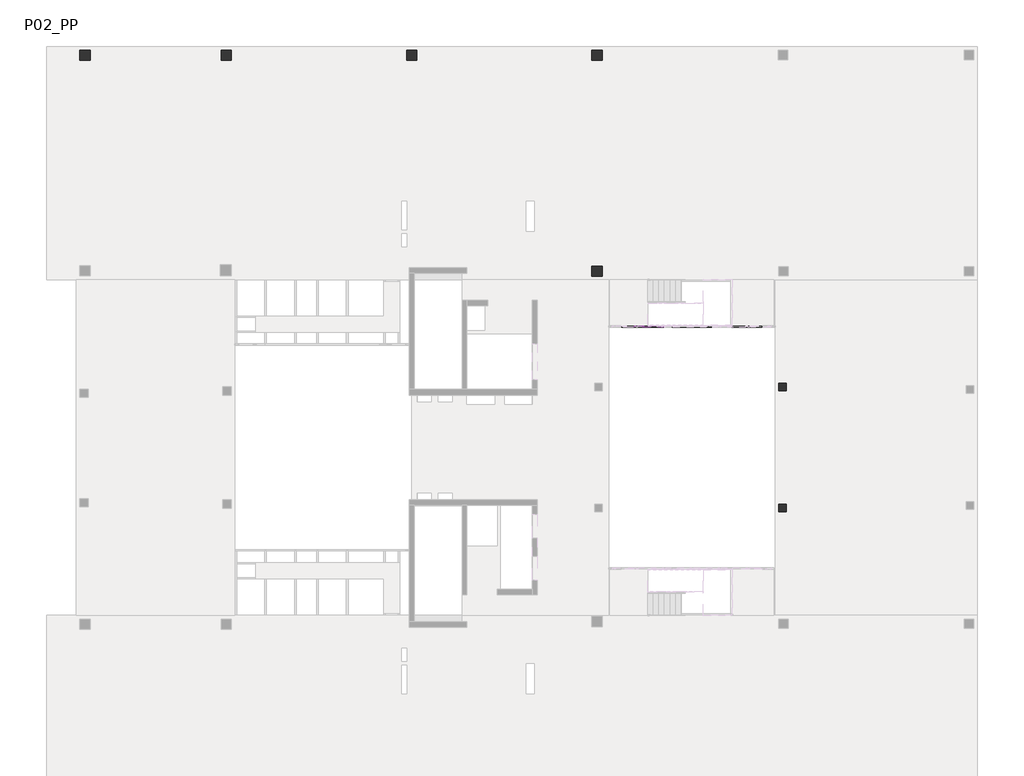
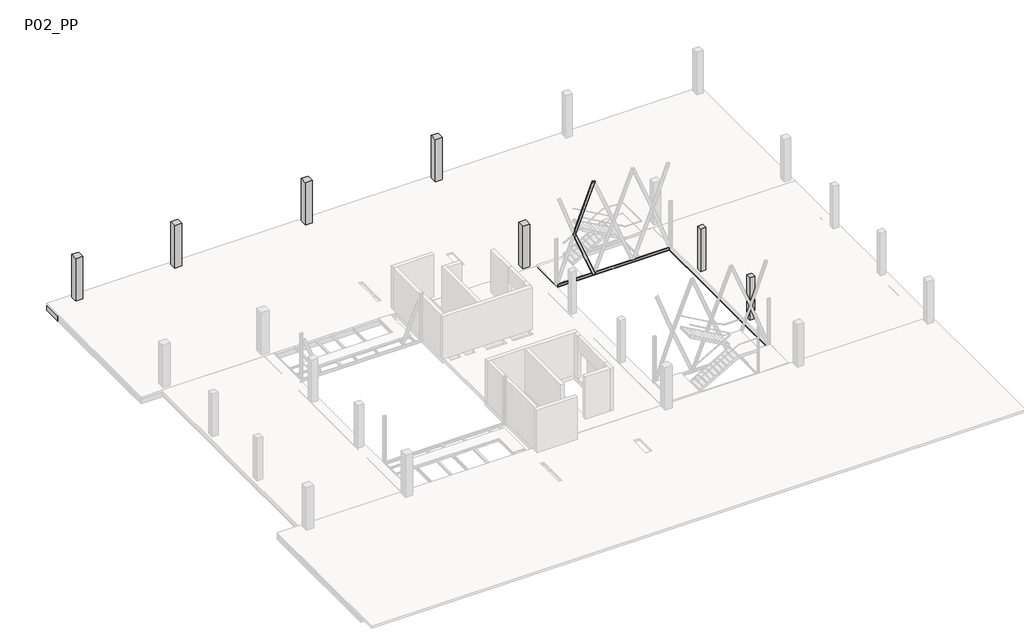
# One storey, part 5 of 7: 28 beams, 7 columns.
"""IFC4 building model written with IfcOpenShell, lengths in millimetres."""

from ifc_helpers import new_model, si_unit, frame, origin, place, context, project, spatial, polyline, circle_curve, ellipse_curve, outline, extrude, faceted_brep, transform, mapped, element, save
from ifc_brep_helpers import plane_surface, cylinder_surface, revolved_surface, advanced_brep
from components import ub_universal_beams_ipe_200x100_1ecb3d1d, ub_universal_beams_ipe_200x100_6905c83b, upn200x75_de95b273

model = new_model("IFC4")

# Units and contexts
model_context = context("Model", 3, world=origin())
ifc_project = project(units=[si_unit("LENGTHUNIT", "METRE", prefix="MILLI")], contexts=[model_context])

# Site, building, storey
site = spatial("IfcSite", under=ifc_project)
building = spatial("IfcBuilding", under=site)
storey = spatial("IfcBuildingStorey", under=building, Name="P02_PP", Elevation=14910.0)

# Beams
placement = place(None, origin())
element("IfcBeam", 1, ObjectType="M_Concrete-Rectangular Beam : 1500 x 550mm", at=placement, inside=storey, context=model_context, shape_type="Brep", body=[
    faceted_brep([(16958.7687297, 26089.4144807, 14360.0), (-33190.2931069, 26089.4144807, 14360.0), (-33190.2931069, 26089.4144807, 14760.0), (16958.7687297, 26089.4144807, 14760.0), (-33190.2931069, 24589.4144807, 14360.0), (16958.7687297, 24589.4144807, 14360.0), (15458.7687297, 24589.4144807, 14360.0), (14183.7291255, 24589.4144807, 14360.0), (13783.7291255, 24589.4144807, 14360.0), (12517.0624618, 24589.4144807, 14360.0), (12117.0624618, 24589.4144807, 14360.0), (10850.3957976, 24589.4144807, 14360.0), (10450.3957976, 24589.4144807, 14360.0), (9183.7291339, 24589.4144807, 14360.0), (8783.7291339, 24589.4144807, 14360.0), (7517.0624701, 24589.4144807, 14360.0), (7117.0624701, 24589.4144807, 14360.0), (5850.3958055, 24589.4144807, 14360.0), (5450.3958055, 24589.4144807, 14360.0), (4183.7291418, 24589.4144807, 14360.0), (3783.7291418, 24589.4144807, 14360.0), (2517.0624776, 24589.4144807, 14360.0), (2117.0624776, 24589.4144807, 14360.0), (850.3958139, 24589.4144807, 14360.0), (450.3958139, 24589.4144807, 14360.0), (-816.2708502, 24589.4144807, 14360.0), (-1216.2708502, 24589.4144807, 14360.0), (-2482.9375136, 24589.4144807, 14360.0), (-2882.9375136, 24589.4144807, 14360.0), (-4149.6041777, 24589.4144807, 14360.0), (-4549.6041777, 24589.4144807, 14360.0), (-5816.2708415, 24589.4144807, 14360.0), (-6216.2708415, 24589.4144807, 14360.0), (-7482.9375051, 24589.4144807, 14360.0), (-7882.9375051, 24589.4144807, 14360.0), (-9149.6041702, 24589.4144807, 14360.0), (-9549.6041702, 24589.4144807, 14360.0), (-10816.2708336, 24589.4144807, 14360.0), (-11216.2708336, 24589.4144807, 14360.0), (-12482.9374977, 24589.4144807, 14360.0), (-12882.9374977, 24589.4144807, 14360.0), (-14149.604161, 24589.4144807, 14360.0), (-14549.604161, 24589.4144807, 14360.0), (-15816.2708252, 24589.4144807, 14360.0), (-16216.2708252, 24589.4144807, 14360.0), (-17482.9374898, 24589.4144807, 14360.0), (-17882.9374898, 24589.4144807, 14360.0), (-19149.6041539, 24589.4144807, 14360.0), (-19549.6041539, 24589.4144807, 14360.0), (-20816.2708168, 24589.4144807, 14360.0), (-21216.2708168, 24589.4144807, 14360.0), (-22482.9374805, 24589.4144807, 14360.0), (-22882.9374805, 24589.4144807, 14360.0), (-24149.6041453, 24589.4144807, 14360.0), (-24549.6041453, 24589.4144807, 14360.0), (-25816.2708089, 24589.4144807, 14360.0), (-26216.2708089, 24589.4144807, 14360.0), (-27482.9374731, 24589.4144807, 14360.0), (-27882.9374731, 24589.4144807, 14360.0), (-29149.6041367, 24589.4144807, 14360.0), (-29549.6041367, 24589.4144807, 14360.0), (-30816.2708024, 24589.4144807, 14360.0), (-31216.2708024, 24589.4144807, 14360.0), (-32490.2931069, 24589.4144807, 14360.0), (6758.8155472, 25339.4133956, 14360.0), (6758.8155464, 25889.4133956, 14360.0), (6208.8155464, 25889.4133947, 14360.0), (6208.8155472, 25339.4133947, 14360.0), (-3266.6369088, 25289.4133493, 14360.0), (-3266.6369078, 25889.4133493, 14360.0), (-3866.6369078, 25889.4133503, 14360.0), (-3866.6369088, 25289.4133503, 14360.0), (-13216.1844624, 25289.4133103, 14360.0), (-13216.1844628, 25889.4133103, 14360.0), (-13816.1844628, 25889.4133099, 14360.0), (-13816.1844624, 25289.4133099, 14360.0), (-23241.1863603, 25289.4132594, 14360.0), (-23241.1863605, 25889.4132594, 14360.0), (-23841.1863605, 25889.4132593, 14360.0), (-23841.1863603, 25289.4132593, 14360.0), (-30791.2219505, 25289.41323, 14360.0), (-30791.2219504, 25889.41323, 14360.0), (-31391.2219504, 25889.4132301, 14360.0), (-31391.2219505, 25289.4132301, 14360.0), (16758.7685927, 25339.4134356, 14360.0), (16758.7685923, 25889.4134356, 14360.0), (16208.7685923, 25889.4134352, 14360.0), (16208.7685927, 25339.4134352, 14360.0), (16958.7687297, 24589.4144807, 14760.0), (15458.7687297, 24589.4144807, 14760.0), (14183.7291255, 24589.4144807, 14760.0), (13783.7291255, 24589.4144807, 14760.0), (12517.0624618, 24589.4144807, 14760.0), (12117.0624618, 24589.4144807, 14760.0), (10850.3957976, 24589.4144807, 14760.0), (10450.3957976, 24589.4144807, 14760.0), (9183.7291339, 24589.4144807, 14760.0), (8783.7291339, 24589.4144807, 14760.0), (7517.0624701, 24589.4144807, 14760.0), (7117.0624701, 24589.4144807, 14760.0), (5850.3958055, 24589.4144807, 14760.0), (5450.3958055, 24589.4144807, 14760.0), (4183.7291418, 24589.4144807, 14760.0), (3783.7291418, 24589.4144807, 14760.0), (2517.0624776, 24589.4144807, 14760.0), (2117.0624776, 24589.4144807, 14760.0), (850.3958139, 24589.4144807, 14760.0), (450.3958139, 24589.4144807, 14760.0), (-816.2708502, 24589.4144807, 14760.0), (-1216.2708502, 24589.4144807, 14760.0), (-2482.9375136, 24589.4144807, 14760.0), (-2882.9375136, 24589.4144807, 14760.0), (-4149.6041777, 24589.4144807, 14760.0), (-4549.6041777, 24589.4144807, 14760.0), (-5816.2708415, 24589.4144807, 14760.0), (-6216.2708415, 24589.4144807, 14760.0), (-7482.9375051, 24589.4144807, 14760.0), (-7882.9375051, 24589.4144807, 14760.0), (-9149.6041702, 24589.4144807, 14760.0), (-9549.6041702, 24589.4144807, 14760.0), (-10816.2708336, 24589.4144807, 14760.0), (-11216.2708336, 24589.4144807, 14760.0), (-12482.9374977, 24589.4144807, 14760.0), (-12882.9374977, 24589.4144807, 14760.0), (-14149.604161, 24589.4144807, 14760.0), (-14549.604161, 24589.4144807, 14760.0), (-15816.2708252, 24589.4144807, 14760.0), (-16216.2708252, 24589.4144807, 14760.0), (-17482.9374898, 24589.4144807, 14760.0), (-17882.9374898, 24589.4144807, 14760.0), (-19149.6041539, 24589.4144807, 14760.0), (-19549.6041539, 24589.4144807, 14760.0), (-20816.2708168, 24589.4144807, 14760.0), (-21216.2708168, 24589.4144807, 14760.0), (-22482.9374805, 24589.4144807, 14760.0), (-22882.9374805, 24589.4144807, 14760.0), (-24149.6041453, 24589.4144807, 14760.0), (-24549.6041453, 24589.4144807, 14760.0), (-25816.2708089, 24589.4144807, 14760.0), (-26216.2708089, 24589.4144807, 14760.0), (-27482.9374731, 24589.4144807, 14760.0), (-27882.9374731, 24589.4144807, 14760.0), (-29149.6041367, 24589.4144807, 14760.0), (-29549.6041367, 24589.4144807, 14760.0), (-30816.2708024, 24589.4144807, 14760.0), (-31216.2708024, 24589.4144807, 14760.0), (-32490.2931069, 24589.4144807, 14760.0), (-33190.2931069, 24589.4144807, 14760.0), (6758.8155472, 25339.4133956, 14610.0), (6758.8155464, 25889.4133956, 14610.0), (6208.8155472, 25339.4133947, 14610.0), (6208.8155464, 25889.4133947, 14610.0), (-3266.6369088, 25289.4133493, 14610.0), (-3266.6369078, 25889.4133493, 14610.0), (-3866.6369088, 25289.4133503, 14610.0), (-3866.6369078, 25889.4133503, 14610.0), (-13216.1844624, 25289.4133103, 14610.0), (-13216.1844628, 25889.4133103, 14610.0), (-13816.1844624, 25289.4133099, 14610.0), (-13816.1844628, 25889.4133099, 14610.0), (-23241.1863603, 25289.4132594, 14610.0), (-23241.1863605, 25889.4132594, 14610.0), (-23841.1863603, 25289.4132593, 14610.0), (-23841.1863605, 25889.4132593, 14610.0), (-30791.2219505, 25289.41323, 14610.0), (-30791.2219504, 25889.41323, 14610.0), (-31391.2219505, 25289.4132301, 14610.0), (-31391.2219504, 25889.4132301, 14610.0), (16758.7685927, 25339.4134356, 14610.0), (16758.7685923, 25889.4134356, 14610.0), (16208.7685927, 25339.4134352, 14610.0), (16208.7685923, 25889.4134352, 14610.0)], [[[0, 1, 2, 3]], [[4, 1, 0, 5, 6, 7, 8, 9, 10, 11, 12, 13, 14, 15, 16, 17, 18, 19, 20, 21, 22, 23, 24, 25, 26, 27, 28, 29, 30, 31, 32, 33, 34, 35, 36, 37, 38, 39, 40, 41, 42, 43, 44, 45, 46, 47, 48, 49, 50, 51, 52, 53, 54, 55, 56, 57, 58, 59, 60, 61, 62, 63], [64, 65, 66, 67], [68, 69, 70, 71], [72, 73, 74, 75], [76, 77, 78, 79], [80, 81, 82, 83], [84, 85, 86, 87]], [[4, 63, 62, 61, 60, 59, 58, 57, 56, 55, 54, 53, 52, 51, 50, 49, 48, 47, 46, 45, 44, 43, 42, 41, 40, 39, 38, 37, 36, 35, 34, 33, 32, 31, 30, 29, 28, 27, 26, 25, 24, 23, 22, 21, 20, 19, 18, 17, 16, 15, 14, 13, 12, 11, 10, 9, 8, 7, 6, 5, 88, 89, 90, 91, 92, 93, 94, 95, 96, 97, 98, 99, 100, 101, 102, 103, 104, 105, 106, 107, 108, 109, 110, 111, 112, 113, 114, 115, 116, 117, 118, 119, 120, 121, 122, 123, 124, 125, 126, 127, 128, 129, 130, 131, 132, 133, 134, 135, 136, 137, 138, 139, 140, 141, 142, 143, 144, 145, 146, 147]], [[1, 4, 147, 2]], [[5, 0, 3, 88]], [[148, 149, 65, 64]], [[150, 148, 64, 67]], [[151, 150, 67, 66]], [[149, 151, 66, 65]], [[149, 148, 150, 151]], [[152, 153, 69, 68]], [[154, 152, 68, 71]], [[155, 154, 71, 70]], [[153, 155, 70, 69]], [[153, 152, 154, 155]], [[156, 157, 73, 72]], [[158, 156, 72, 75]], [[159, 158, 75, 74]], [[157, 159, 74, 73]], [[157, 156, 158, 159]], [[160, 161, 77, 76]], [[162, 160, 76, 79]], [[163, 162, 79, 78]], [[161, 163, 78, 77]], [[161, 160, 162, 163]], [[164, 165, 81, 80]], [[166, 164, 80, 83]], [[167, 166, 83, 82]], [[165, 167, 82, 81]], [[165, 164, 166, 167]], [[168, 169, 85, 84]], [[170, 168, 84, 87]], [[171, 170, 87, 86]], [[169, 171, 86, 85]], [[169, 168, 170, 171]], [[3, 2, 147, 146, 145, 144, 143, 142, 141, 140, 139, 138, 137, 136, 135, 134, 133, 132, 131, 130, 129, 128, 127, 126, 125, 124, 123, 122, 121, 120, 119, 118, 117, 116, 115, 114, 113, 112, 111, 110, 109, 108, 107, 106, 105, 104, 103, 102, 101, 100, 99, 98, 97, 96, 95, 94, 93, 92, 91, 90, 89, 88]]]),
])
element("IfcBeam", 2, ObjectType="M_Concrete-Rectangular Beam : 400 x 550mm", at=placement, inside=storey, context=model_context, shape_type="SweptSolid", body=[
    extrude(outline(polyline([(-31216.2708024, 24589.4144807), (-30816.2708024, 24589.4144807), (-30816.2708024, 15039.4134441), (-31216.2708024, 15039.4134441), (-31216.2708024, 24589.4144807)])), frame((0.0, 0.0, 14360.0), z_axis=(0.0, 0.0, 1.0), x_axis=(1.0, 0.0, 0.0)), (0.0, 0.0, 1.0), 400.0),
])
element("IfcBeam", 3, ObjectType="M_Concrete-Rectangular Beam : 400 x 550mm", at=placement, inside=storey, context=model_context, shape_type="SweptSolid", body=[
    extrude(outline(polyline([(-29549.6041367, 24589.4144807), (-29149.6041367, 24589.4144807), (-29149.6041367, 15039.4134441), (-29549.6041367, 15039.4134441), (-29549.6041367, 24589.4144807)])), frame((0.0, 0.0, 14360.0), z_axis=(0.0, 0.0, 1.0), x_axis=(1.0, 0.0, 0.0)), (0.0, 0.0, 1.0), 400.0),
])
element("IfcBeam", 4, ObjectType="M_Concrete-Rectangular Beam : 400 x 550mm", at=placement, inside=storey, context=model_context, shape_type="SweptSolid", body=[
    extrude(outline(polyline([(-27882.9374731, 24589.4144807), (-27482.9374731, 24589.4144807), (-27482.9374731, 15039.4134441), (-27882.9374731, 15039.4134441), (-27882.9374731, 24589.4144807)])), frame((0.0, 0.0, 14360.0), z_axis=(0.0, 0.0, 1.0), x_axis=(1.0, 0.0, 0.0)), (0.0, 0.0, 1.0), 400.0),
])
element("IfcBeam", 5, ObjectType="M_Concrete-Rectangular Beam : 400 x 550mm", at=placement, inside=storey, context=model_context, shape_type="SweptSolid", body=[
    extrude(outline(polyline([(-26216.2708089, 24589.4144807), (-25816.2708089, 24589.4144807), (-25816.2708089, 15039.4134441), (-26216.2708089, 15039.4134441), (-26216.2708089, 24589.4144807)])), frame((0.0, 0.0, 14360.0), z_axis=(0.0, 0.0, 1.0), x_axis=(1.0, 0.0, 0.0)), (0.0, 0.0, 1.0), 400.0),
])
element("IfcBeam", 6, ObjectType="M_Concrete-Rectangular Beam : 400 x 550mm", at=placement, inside=storey, context=model_context, shape_type="SweptSolid", body=[
    extrude(outline(polyline([(-24549.6041453, 24589.4144807), (-24149.6041453, 24589.4144807), (-24149.6041453, 15039.4134441), (-24549.6041453, 15039.4134441), (-24549.6041453, 24589.4144807)])), frame((0.0, 0.0, 14360.0), z_axis=(0.0, 0.0, 1.0), x_axis=(1.0, 0.0, 0.0)), (0.0, 0.0, 1.0), 400.0),
])
element("IfcBeam", 7, ObjectType="M_Concrete-Rectangular Beam : 400 x 550mm", at=placement, inside=storey, context=model_context, shape_type="SweptSolid", body=[
    extrude(outline(polyline([(-22882.9374805, 24589.4144807), (-22482.9374805, 24589.4144807), (-22482.9374805, 15039.4134441), (-22882.9374805, 15039.4134441), (-22882.9374805, 24589.4144807)])), frame((0.0, 0.0, 14360.0), z_axis=(0.0, 0.0, 1.0), x_axis=(1.0, 0.0, 0.0)), (0.0, 0.0, 1.0), 400.0),
])
element("IfcBeam", 8, ObjectType="M_Concrete-Rectangular Beam : 400 x 550mm", at=placement, inside=storey, context=model_context, shape_type="SweptSolid", body=[
    extrude(outline(polyline([(-21216.2708168, 24589.4144807), (-20816.2708168, 24589.4144807), (-20816.2708168, 15039.4134441), (-21216.2708168, 15039.4134441), (-21216.2708168, 24589.4144807)])), frame((0.0, 0.0, 14360.0), z_axis=(0.0, 0.0, 1.0), x_axis=(1.0, 0.0, 0.0)), (0.0, 0.0, 1.0), 400.0),
])
element("IfcBeam", 9, ObjectType="M_Concrete-Rectangular Beam : 400 x 550mm", at=placement, inside=storey, context=model_context, shape_type="SweptSolid", body=[
    extrude(outline(polyline([(-19549.6041539, 24589.4144807), (-19149.6041539, 24589.4144807), (-19149.6041539, 15039.4134441), (-19549.6041539, 15039.4134441), (-19549.6041539, 24589.4144807)])), frame((0.0, 0.0, 14360.0), z_axis=(0.0, 0.0, 1.0), x_axis=(1.0, 0.0, 0.0)), (0.0, 0.0, 1.0), 400.0),
])
element("IfcBeam", 10, ObjectType="M_Concrete-Rectangular Beam : 400 x 550mm", at=placement, inside=storey, context=model_context, shape_type="SweptSolid", body=[
    extrude(outline(polyline([(-17882.9374898, 24589.4144807), (-17482.9374898, 24589.4144807), (-17482.9374898, 15039.4134441), (-17882.9374898, 15039.4134441), (-17882.9374898, 24589.4144807)])), frame((0.0, 0.0, 14360.0), z_axis=(0.0, 0.0, 1.0), x_axis=(1.0, 0.0, 0.0)), (0.0, 0.0, 1.0), 400.0),
])
element("IfcBeam", 11, ObjectType="M_Concrete-Rectangular Beam : 400 x 550mm", at=placement, inside=storey, context=model_context, shape_type="SweptSolid", body=[
    extrude(outline(polyline([(-16216.2708252, 24589.4144807), (-15816.2708252, 24589.4144807), (-15816.2708252, 15039.4134441), (-16216.2708252, 15039.4134441), (-16216.2708252, 24589.4144807)])), frame((0.0, 0.0, 14360.0), z_axis=(0.0, 0.0, 1.0), x_axis=(1.0, 0.0, 0.0)), (0.0, 0.0, 1.0), 400.0),
])
element("IfcBeam", 12, ObjectType="M_Concrete-Rectangular Beam : 400 x 550mm", at=placement, inside=storey, context=model_context, shape_type="SweptSolid", body=[
    extrude(outline(polyline([(-14549.604161, 24589.4144807), (-14149.604161, 24589.4144807), (-14149.604161, 15039.4134441), (-14549.604161, 15039.4134441), (-14549.604161, 24589.4144807)])), frame((0.0, 0.0, 14360.0), z_axis=(0.0, 0.0, 1.0), x_axis=(1.0, 0.0, 0.0)), (0.0, 0.0, 1.0), 400.0),
])
element("IfcBeam", 13, ObjectType="M_Concrete-Rectangular Beam : 400 x 550mm", at=placement, inside=storey, context=model_context, shape_type="SweptSolid", body=[
    extrude(outline(polyline([(-12882.9374977, 24589.4144807), (-12482.9374977, 24589.4144807), (-12482.9374977, 15039.4134441), (-12882.9374977, 15039.4134441), (-12882.9374977, 24589.4144807)])), frame((0.0, 0.0, 14360.0), z_axis=(0.0, 0.0, 1.0), x_axis=(1.0, 0.0, 0.0)), (0.0, 0.0, 1.0), 400.0),
])
element("IfcBeam", 14, ObjectType="M_Concrete-Rectangular Beam : 400 x 550mm", at=placement, inside=storey, context=model_context, shape_type="SweptSolid", body=[
    extrude(outline(polyline([(-11216.2708336, 24589.4144807), (-10816.2708336, 24589.4144807), (-10816.2708336, 15039.4134441), (-11216.2708336, 15039.4134441), (-11216.2708336, 24589.4144807)])), frame((0.0, 0.0, 14360.0), z_axis=(0.0, 0.0, 1.0), x_axis=(1.0, 0.0, 0.0)), (0.0, 0.0, 1.0), 400.0),
])
element("IfcBeam", 15, ObjectType="M_Concrete-Rectangular Beam : 400 x 550mm", at=placement, inside=storey, context=model_context, shape_type="SweptSolid", body=[
    extrude(outline(polyline([(-9549.6041702, 24589.4144807), (-9149.6041702, 24589.4144807), (-9149.6041702, 15039.4134441), (-9549.6041702, 15039.4134441), (-9549.6041702, 24589.4144807)])), frame((0.0, 0.0, 14360.0), z_axis=(0.0, 0.0, 1.0), x_axis=(1.0, 0.0, 0.0)), (0.0, 0.0, 1.0), 400.0),
])
element("IfcBeam", 16, ObjectType="M_Concrete-Rectangular Beam : 400 x 550mm", at=placement, inside=storey, context=model_context, shape_type="SweptSolid", body=[
    extrude(outline(polyline([(-7882.9375051, 24589.4144807), (-7482.9375051, 24589.4144807), (-7482.9375051, 15039.4134441), (-7882.9375051, 15039.4134441), (-7882.9375051, 24589.4144807)])), frame((0.0, 0.0, 14360.0), z_axis=(0.0, 0.0, 1.0), x_axis=(1.0, 0.0, 0.0)), (0.0, 0.0, 1.0), 400.0),
])
element("IfcBeam", 17, ObjectType="M_Concrete-Rectangular Beam : 400 x 550mm", at=placement, inside=storey, context=model_context, shape_type="SweptSolid", body=[
    extrude(outline(polyline([(-6216.2708415, 24589.4144807), (-5816.2708415, 24589.4144807), (-5816.2708415, 15039.4134441), (-6216.2708415, 15039.4134441), (-6216.2708415, 24589.4144807)])), frame((0.0, 0.0, 14360.0), z_axis=(0.0, 0.0, 1.0), x_axis=(1.0, 0.0, 0.0)), (0.0, 0.0, 1.0), 400.0),
])
element("IfcBeam", 18, ObjectType="M_Concrete-Rectangular Beam : 400 x 550mm", at=placement, inside=storey, context=model_context, shape_type="SweptSolid", body=[
    extrude(outline(polyline([(-4549.6041777, 24589.4144807), (-4149.6041777, 24589.4144807), (-4149.6041777, 15039.4134441), (-4549.6041777, 15039.4134441), (-4549.6041777, 24589.4144807)])), frame((0.0, 0.0, 14360.0), z_axis=(0.0, 0.0, 1.0), x_axis=(1.0, 0.0, 0.0)), (0.0, 0.0, 1.0), 400.0),
])
element("IfcBeam", 19, ObjectType="M_Concrete-Rectangular Beam : 400 x 550mm", at=placement, inside=storey, context=model_context, shape_type="SweptSolid", body=[
    extrude(outline(polyline([(-2882.9375136, 24589.4144807), (-2482.9375136, 24589.4144807), (-2482.9375136, 15039.4134441), (-2882.9375136, 15039.4134441), (-2882.9375136, 24589.4144807)])), frame((0.0, 0.0, 14360.0), z_axis=(0.0, 0.0, 1.0), x_axis=(1.0, 0.0, 0.0)), (0.0, 0.0, 1.0), 400.0),
])
element("IfcBeam", 20, ObjectType="M_Concrete-Rectangular Beam : 400 x 550mm", at=placement, inside=storey, context=model_context, shape_type="SweptSolid", body=[
    extrude(outline(polyline([(-1216.2708502, 24589.4144807), (-816.2708502, 24589.4144807), (-816.2708502, 15039.4134441), (-1216.2708502, 15039.4134441), (-1216.2708502, 24589.4144807)])), frame((0.0, 0.0, 14360.0), z_axis=(0.0, 0.0, 1.0), x_axis=(1.0, 0.0, 0.0)), (0.0, 0.0, 1.0), 400.0),
])
element("IfcBeam", 21, ObjectType="M_Concrete-Rectangular Beam : 700 x 500mm", at=placement, inside=storey, context=model_context, shape_type="Brep", body=[
    faceted_brep([(6758.8308521, 13539.4134441, 14910.0), (6058.8308521, 13539.4134441, 14910.0), (6058.8308521, -4560.5861501, 14910.0), (6758.8308521, -4560.5861501, 14910.0), (6658.8276494, 1439.4125013, 14910.0), (6658.8276496, 1039.4125013, 14910.0), (6258.8276496, 1039.4125011, 14910.0), (6258.8276494, 1439.4125011, 14910.0), (6658.8276467, 7939.4125047, 14910.0), (6658.8276471, 7539.4125047, 14910.0), (6258.8276471, 7539.4125042, 14910.0), (6258.8276467, 7939.4125042, 14910.0), (6058.8308521, 13539.4134441, 14760.0), (6058.8308521, 13539.4134441, 14410.0), (6058.8308521, -4560.5861501, 14410.0), (6058.8308521, -4560.5861501, 14760.0), (6758.8308521, 13539.4134441, 14410.0), (6758.8308521, -4560.5861501, 14410.0), (6658.8276496, 1039.4125013, 14410.0), (6658.8276494, 1439.4125013, 14410.0), (6258.8276494, 1439.4125011, 14410.0), (6258.8276496, 1039.4125011, 14410.0), (6658.8276471, 7539.4125047, 14410.0), (6658.8276467, 7939.4125047, 14410.0), (6258.8276467, 7939.4125042, 14410.0), (6258.8276471, 7539.4125042, 14410.0), (6758.8308521, -4560.5861501, 14760.0), (6758.8308521, 13539.4134441, 14760.0), (6658.8276496, 1039.4125013, 14610.0), (6658.8276494, 1439.4125013, 14610.0), (6258.8276496, 1039.4125011, 14610.0), (6258.8276494, 1439.4125011, 14610.0), (6658.8276471, 7539.4125047, 14610.0), (6658.8276467, 7939.4125047, 14610.0), (6258.8276471, 7539.4125042, 14610.0), (6258.8276467, 7939.4125042, 14610.0)], [[[0, 1, 2, 3], [4, 5, 6, 7], [8, 9, 10, 11]], [[2, 1, 12, 13, 14, 15]], [[13, 16, 17, 14], [18, 19, 20, 21], [22, 23, 24, 25]], [[0, 3, 26, 17, 16, 27]], [[1, 0, 27, 16, 13, 12]], [[3, 2, 15, 14, 17, 26]], [[19, 18, 28, 5, 4, 29]], [[18, 21, 30, 6, 5, 28]], [[21, 20, 31, 7, 6, 30]], [[20, 19, 29, 4, 7, 31]], [[23, 22, 32, 9, 8, 33]], [[22, 25, 34, 10, 9, 32]], [[25, 24, 35, 11, 10, 34]], [[24, 23, 33, 8, 11, 35]]]),
])
ub_universal_beams_ipe_200x100_shape = ub_universal_beams_ipe_200x100_1ecb3d1d(model_context)
element("IfcBeam", 22, ObjectType="UB-Universal Beams : IPE 200x100", at=placement, inside=storey, context=model_context, shape_type="MappedRepresentation", body=[
    mapped(ub_universal_beams_ipe_200x100_shape, transform((-2811.4958562, 12672.0188251, 14810.0), x_axis=(0.0, -1.0, 0.0), y_axis=(1.0, 0.0, 0.0), z_axis=(0.0, 0.0, 1.0))),
])
ub_universal_beams_ipe_200x100_2_shape = ub_universal_beams_ipe_200x100_6905c83b(model_context)
element("IfcBeam", 23, ObjectType="UB-Universal Beams : IPE 200x100", at=placement, inside=storey, context=model_context, shape_type="MappedRepresentation", body=[
    mapped(ub_universal_beams_ipe_200x100_2_shape, transform((-861.4958562, 12677.4822857, 14810.0), x_axis=(0.0, -1.0, 0.0), y_axis=(1.0, 0.0, 0.0), z_axis=(0.0, 0.0, 1.0))),
])
element("IfcBeam", 24, ObjectType="UB-Universal Beams : IPE 200x100", at=placement, inside=storey, context=model_context, shape_type="MappedRepresentation", body=[
    mapped(ub_universal_beams_ipe_200x100_2_shape, transform((-1511.4958562, 12677.4822857, 14810.0), x_axis=(0.0, -1.0, 0.0), y_axis=(1.0, 0.0, 0.0), z_axis=(0.0, 0.0, 1.0))),
])
element("IfcBeam", 25, ObjectType="UB-Universal Beams : IPE 200x100", at=placement, inside=storey, context=model_context, shape_type="MappedRepresentation", body=[
    mapped(ub_universal_beams_ipe_200x100_2_shape, transform((-2161.4958562, 12677.4822857, 14810.0), x_axis=(0.0, -1.0, 0.0), y_axis=(1.0, 0.0, 0.0), z_axis=(0.0, 0.0, 1.0))),
])
element("IfcBeam", 26, ObjectType="M_MC Shapes : UPN200x75", at=placement, inside=storey, context=model_context, shape_type="AdvancedBrep", body=[
    advanced_brep(
    [(166.4934724, 10979.6239706, 22272.8267741), (166.49347, 11054.6239706, 22272.8267741), (165.5885068, 11054.6239706, 22273.1887594), (161.9709242, 11051.3233478, 22274.6357925), (152.6013192, 10990.7752157, 22278.3836352), (145.366154, 10984.17397, 22281.2777014), (1.9254523, 10984.1739655, 22338.6539821), (-5.3097133, 10990.7752108, 22341.5480482), (-14.6793221, 11051.3233423, 22345.295891), (-18.2969049, 11054.6239649, 22346.7429241), (-19.2018681, 11054.6239649, 22347.1049094), (-19.2018658, 10979.6239649, 22347.1049094), (-1534.0438198, 10979.6239176, 18560.0000243), (-1318.6372276, 10979.6239244, 18560.0000243), (-1534.0438222, 11054.6239176, 18560.0000243), (-1532.9940648, 11054.6239177, 18560.0000243), (-1528.7976687, 11051.3232951, 18560.0000243), (-1517.9289228, 10990.7751636, 18560.0000243), (-1509.5361308, 10984.1739184, 18560.0000243), (-1343.1449168, 10984.1739236, 18560.0000243), (-1334.7521252, 10990.7751693, 18560.0000243), (-1323.8833831, 11051.3233015, 18560.0000243), (-1319.6869873, 11054.6239243, 18560.0000243), (-1318.6372299, 11054.6239244, 18560.0000243)],
    [
        (0, 1),
        (1, 2),
        (2, 3, circle_curve(frame((165.5885069, 11050.6739706, 22273.1887594), z_axis=(0.3713906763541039, 1.1576565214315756e-08, 0.9284766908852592), x_axis=(-3.117085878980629e-08, 0.9999999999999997, 0.0)), 3.95)),
        (3, 4),
        (4, 5, circle_curve(frame((145.3661538, 10992.07397, 22281.2777014), z_axis=(-0.3713906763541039, -1.1576565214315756e-08, -0.9284766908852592), x_axis=(-3.117085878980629e-08, 0.9999999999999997, 0.0)), 7.9)),
        (5, 6),
        (6, 7, circle_curve(frame((1.925452, 10992.0739655, 22338.6539821), z_axis=(-0.3713906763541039, -1.1576565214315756e-08, -0.9284766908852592), x_axis=(-3.117085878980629e-08, 0.9999999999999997, 0.0)), 7.9)),
        (7, 8),
        (8, 9, circle_curve(frame((-18.2969047, 11050.6739649, 22346.7429241), z_axis=(0.3713906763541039, 1.1576565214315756e-08, 0.9284766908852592), x_axis=(-3.117085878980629e-08, 0.9999999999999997, 0.0)), 3.95)),
        (9, 10),
        (10, 11),
        (11, 0),
        (12, 13),
        (13, 0),
        (11, 12),
        (14, 12),
        (10, 14),
        (15, 14),
        (9, 15),
        (16, 15, ellipse_curve(frame((-1532.9940646, 11050.6739177, 18560.0000243), z_axis=(1.3382099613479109e-10, -2.582863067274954e-10, 1.0), x_axis=(-0.9999999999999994, -3.181657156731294e-08, 1.338211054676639e-10)), 4.2542802, 3.95)),
        (8, 16),
        (7, 17),
        (17, 16),
        (18, 17, ellipse_curve(frame((-1509.5361311, 10992.0739184, 18560.0000243), z_axis=(-1.3382099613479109e-10, 2.582863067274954e-10, -1.0), x_axis=(0.9999999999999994, 3.181657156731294e-08, -1.338211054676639e-10)), 8.5085604, 7.9)),
        (6, 18),
        (19, 18),
        (5, 19),
        (20, 19, ellipse_curve(frame((-1343.1449171, 10992.0739236, 18560.0000243), z_axis=(-1.3382099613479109e-10, 2.582863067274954e-10, -1.0), x_axis=(0.9999999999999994, 3.181657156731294e-08, -1.338211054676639e-10)), 8.5085604, 7.9)),
        (4, 20),
        (3, 21),
        (21, 20),
        (22, 21, ellipse_curve(frame((-1319.6869872, 11050.6739243, 18560.0000243), z_axis=(1.3382099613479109e-10, -2.582863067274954e-10, 1.0), x_axis=(-0.9999999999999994, -3.181657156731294e-08, 1.338211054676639e-10)), 4.2542802, 3.95)),
        (2, 22),
        (23, 22),
        (1, 23),
        (13, 23),
    ],
    [
        plane_surface(frame((73.645803, 10990.5239678, 22309.9658417), z_axis=(0.37139067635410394, 1.1576565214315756e-08, 0.9284766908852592), x_axis=(0.9284766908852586, 2.8941416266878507e-08, -0.37139067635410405))),
        plane_surface(frame((-1318.6235642, 10979.6239244, 18560.0341826), z_axis=(3.1170858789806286e-08, -0.9999999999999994, 0.0), x_axis=(0.3713906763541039, 1.1576565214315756e-08, 0.9284766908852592))),
        plane_surface(frame((-1504.3189024, 10979.6239186, 18634.3123179), z_axis=(-0.9284766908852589, -2.8941416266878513e-08, 0.37139067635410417), x_axis=(0.3713906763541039, 1.1576565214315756e-08, 0.9284766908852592))),
        plane_surface(frame((-1504.3189047, 11054.6239186, 18634.3123179), z_axis=(-3.1170858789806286e-08, 0.9999999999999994, 0.0), x_axis=(0.3713906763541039, 1.1576565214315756e-08, 0.9284766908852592))),
        cylinder_surface(frame((-1503.4139413, 11050.6739186, 18633.9503325), z_axis=(-0.3713906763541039, -1.1576565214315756e-08, -0.9284766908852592), x_axis=(-3.117085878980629e-08, 0.9999999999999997, 0.0)), 3.95),
        plane_surface(frame((-1496.9839382, 11033.1489188, 18631.3783315), z_axis=(0.9158437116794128, 0.16439933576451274, -0.36633748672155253), x_axis=(0.3713906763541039, 1.1576565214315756e-08, 0.9284766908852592))),
        revolved_surface(polyline([(1.9254517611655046, 10999.973965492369, 22338.653982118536), (-1510.7097259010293, 10999.973918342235, 18557.06603796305)]), (-1483.1915846, 10992.0739192, 18625.8613906), (0.3713906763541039, 1.1576565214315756e-08, 0.9284766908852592)),
        plane_surface(frame((-1483.1915843, 10984.1739192, 18625.8613906), z_axis=(-3.1170858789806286e-08, 0.9999999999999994, 0.0), x_axis=(0.3713906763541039, 1.1576565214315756e-08, 0.9284766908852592))),
        revolved_surface(polyline([(145.3661535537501, 10999.973969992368, 22281.2777014), (-1344.3185118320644, 10999.973923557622, 18557.066037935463)]), (-1339.7508828, 10992.0739237, 18568.4851099), (0.3713906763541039, 1.1576565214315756e-08, 0.9284766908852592)),
        plane_surface(frame((-1325.9585318, 11033.1489241, 18562.9681689), z_axis=(-0.915843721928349, 0.16439927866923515, 0.3663374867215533), x_axis=(0.3713906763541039, 1.1576565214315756e-08, 0.9284766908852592))),
        cylinder_surface(frame((-1319.5285297, 11050.6739243, 18560.3961679), z_axis=(-0.3713906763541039, -1.1576565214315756e-08, -0.9284766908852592), x_axis=(-3.117085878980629e-08, 0.9999999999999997, 0.0)), 3.95),
        plane_surface(frame((-1319.5285298, 11054.6239243, 18560.3961679), z_axis=(-3.1170858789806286e-08, 0.9999999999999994, 0.0), x_axis=(0.3713906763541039, 1.1576565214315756e-08, 0.9284766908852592))),
        plane_surface(frame((-1318.6235666, 11054.6239244, 18560.0341826), z_axis=(0.9284766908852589, 2.8941416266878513e-08, -0.37139067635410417), x_axis=(0.3713906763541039, 1.1576565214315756e-08, 0.9284766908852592))),
        plane_surface(frame((-1318.6372279, 10990.5239244, 18560.0000243), z_axis=(-1.3382099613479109e-10, 2.582863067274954e-10, -1.0), x_axis=(1.0, 0.0, -1.3382099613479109e-10))),
    ],
    [
        (0, [[1, 2, 3, 4, 5, 6, 7, 8, 9, 10, 11, 12]]),
        (1, [[13, 14, -12, 15]]),
        (2, [[16, -15, -11, 17]]),
        (3, [[18, -17, -10, 19]]),
        (4, [[20, -19, -9, 21]]),
        (5, [[-21, -8, 22, 23]]),
        (6, [[24, -22, -7, 25]]),
        (7, [[26, -25, -6, 27]]),
        (8, [[28, -27, -5, 29]]),
        (9, [[-29, -4, 30, 31]]),
        (10, [[32, -30, -3, 33]]),
        (11, [[34, -33, -2, 35]]),
        (12, [[36, -35, -1, -14]]),
        (13, [[-13, -16, -18, -20, -23, -24, -26, -28, -31, -32, -34, -36]]),
    ],
),
])
element("IfcBeam", 27, ObjectType="M_MC Shapes : UPN200x75", at=placement, inside=storey, context=model_context, shape_type="AdvancedBrep", body=[
    advanced_brep(
    [(166.4934811, 10979.6239725, 14847.17325), (-19.2018571, 10979.6239665, 14772.8951148), (-19.2018596, 11054.6239665, 14772.8951148), (-18.2968963, 11054.6239665, 14773.2571001), (-14.6793135, 11051.3233439, 14774.7041332), (-5.3097046, 10990.7752124, 14778.4519759), (1.9254609, 10984.1739672, 14781.3460421), (145.3661627, 10984.1739718, 14838.7223227), (152.6013278, 10990.7752176, 14841.6163889), (161.9709328, 11051.3233496, 14845.3642316), (165.5885153, 11054.6239725, 14846.8112647), (166.4934786, 11054.6239725, 14847.17325), (-1534.0438198, 10979.6239173, 18560.0000243), (-1318.6372275, 10979.6239243, 18560.0000243), (-1534.0438222, 11054.6239173, 18560.0000243), (-1532.9940648, 11054.6239174, 18560.0000243), (-1528.7976688, 11051.3232948, 18560.0000243), (-1517.9289228, 10990.7751633, 18560.0000243), (-1509.5361308, 10984.1739181, 18560.0000243), (-1343.1449168, 10984.1739235, 18560.0000243), (-1334.7521252, 10990.7751693, 18560.0000243), (-1323.8833831, 11051.3233014, 18560.0000243), (-1319.6869873, 11054.6239243, 18560.0000243), (-1318.6372299, 11054.6239243, 18560.0000243)],
    [
        (0, 1),
        (1, 2),
        (2, 3),
        (3, 4, circle_curve(frame((-18.2968962, 11050.6739665, 14773.2571001), z_axis=(0.3713906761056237, 1.2056190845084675e-08, -0.9284766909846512), x_axis=(-3.246228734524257e-08, 0.9999999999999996, 0.0)), 3.95)),
        (4, 5),
        (5, 6, circle_curve(frame((1.9254607, 10992.0739672, 14781.3460421), z_axis=(-0.3713906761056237, -1.2056190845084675e-08, 0.9284766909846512), x_axis=(-3.246228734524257e-08, 0.9999999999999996, 0.0)), 7.9)),
        (6, 7),
        (7, 8, circle_curve(frame((145.3661624, 10992.0739718, 14838.7223227), z_axis=(-0.3713906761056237, -1.2056190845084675e-08, 0.9284766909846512), x_axis=(-3.246228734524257e-08, 0.9999999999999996, 0.0)), 7.9)),
        (8, 9),
        (9, 10, circle_curve(frame((165.5885155, 11050.6739725, 14846.8112647), z_axis=(0.3713906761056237, 1.2056190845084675e-08, -0.9284766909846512), x_axis=(-3.246228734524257e-08, 0.9999999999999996, 0.0)), 3.95)),
        (10, 11),
        (11, 0),
        (12, 1),
        (0, 13),
        (13, 12),
        (14, 2),
        (12, 14),
        (15, 3),
        (14, 15),
        (16, 4),
        (15, 16, ellipse_curve(frame((-1532.9940647, 11050.6739174, 18560.0000243), z_axis=(-1.3382099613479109e-10, 2.582863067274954e-10, -1.0), x_axis=(-0.9999999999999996, -3.1816571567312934e-08, 1.3382110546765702e-10)), 4.2542802, 3.95)),
        (16, 17),
        (17, 5),
        (18, 6),
        (17, 18, ellipse_curve(frame((-1509.536131, 10992.0739181, 18560.0000243), z_axis=(1.3382099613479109e-10, -2.582863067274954e-10, 1.0), x_axis=(0.9999999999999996, 3.1816571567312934e-08, -1.3382110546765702e-10)), 8.5085604, 7.9)),
        (19, 7),
        (18, 19),
        (20, 8),
        (19, 20, ellipse_curve(frame((-1343.1449171, 10992.0739235, 18560.0000243), z_axis=(1.3382099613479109e-10, -2.582863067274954e-10, 1.0), x_axis=(0.9999999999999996, 3.1816571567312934e-08, -1.3382110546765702e-10)), 8.5085604, 7.9)),
        (20, 21),
        (21, 9),
        (22, 10),
        (21, 22, ellipse_curve(frame((-1319.6869872, 11050.6739243, 18560.0000243), z_axis=(-1.3382099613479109e-10, 2.582863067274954e-10, -1.0), x_axis=(-0.9999999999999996, -3.1816571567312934e-08, 1.3382110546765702e-10)), 4.2542802, 3.95)),
        (23, 11),
        (22, 23),
        (23, 13),
    ],
    [
        plane_surface(frame((73.6458116, 10990.5239695, 14810.0341824), z_axis=(0.3713906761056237, 1.2056190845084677e-08, -0.9284766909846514), x_axis=(0.9284766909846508, 3.0140477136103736e-08, 0.3713906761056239))),
        plane_surface(frame((-1318.6235546, 10979.6239243, 18559.9658419), z_axis=(3.246228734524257e-08, -0.9999999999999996, 0.0), x_axis=(0.3713906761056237, 1.2056190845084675e-08, -0.9284766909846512))),
        plane_surface(frame((-1504.3188928, 10979.6239183, 18485.6877067), z_axis=(-0.9284766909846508, -3.0140477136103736e-08, -0.37139067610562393), x_axis=(0.3713906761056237, 1.2056190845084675e-08, -0.9284766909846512))),
        plane_surface(frame((-1504.3188952, 11054.6239183, 18485.6877067), z_axis=(-3.246228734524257e-08, 0.9999999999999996, 0.0), x_axis=(0.3713906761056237, 1.2056190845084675e-08, -0.9284766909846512))),
        cylinder_surface(frame((-1503.4139318, 11050.6739183, 18486.049692), z_axis=(-0.3713906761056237, -1.2056190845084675e-08, 0.9284766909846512), x_axis=(-3.246228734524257e-08, 0.9999999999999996, 0.0)), 3.95),
        plane_surface(frame((-1496.9839286, 11033.1489185, 18488.621693), z_axis=(0.9158437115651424, 0.164399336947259, 0.36633748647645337), x_axis=(0.3713906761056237, 1.2056190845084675e-08, -0.9284766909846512))),
        revolved_surface(polyline([(1.9254604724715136, 10999.973967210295, 14781.346042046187), (-1510.709725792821, 10999.973918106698, 18562.934010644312)]), (-1483.1915749, 10992.073919, 18494.138634), (0.3713906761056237, 1.2056190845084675e-08, -0.9284766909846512)),
        plane_surface(frame((-1483.1915747, 10984.173919, 18494.138634), z_axis=(-3.246228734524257e-08, 0.9999999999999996, 0.0), x_axis=(0.3713906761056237, 1.2056190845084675e-08, -0.9284766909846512))),
        revolved_surface(polyline([(145.36616215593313, 10999.973971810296, 14838.722322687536), (-1344.3185118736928, 10999.973923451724, 18562.934010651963)]), (-1339.7508732, 10992.0739236, 18551.5149146), (0.3713906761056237, 1.2056190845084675e-08, -0.9284766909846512)),
        plane_surface(frame((-1325.9585222, 11033.1489241, 18557.0318556), z_axis=(-0.9158437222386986, 0.16439927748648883, -0.3663374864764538), x_axis=(0.3713906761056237, 1.2056190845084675e-08, -0.9284766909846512))),
        cylinder_surface(frame((-1319.5285201, 11050.6739243, 18559.6038566), z_axis=(-0.3713906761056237, -1.2056190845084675e-08, 0.9284766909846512), x_axis=(-3.246228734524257e-08, 0.9999999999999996, 0.0)), 3.95),
        plane_surface(frame((-1319.5285203, 11054.6239243, 18559.6038566), z_axis=(-3.246228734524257e-08, 0.9999999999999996, 0.0), x_axis=(0.3713906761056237, 1.2056190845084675e-08, -0.9284766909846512))),
        plane_surface(frame((-1318.623557, 11054.6239243, 18559.9658419), z_axis=(0.9284766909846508, 3.0140477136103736e-08, 0.37139067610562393), x_axis=(0.3713906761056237, 1.2056190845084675e-08, -0.9284766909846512))),
        plane_surface(frame((-1534.0438202, 10990.5239175, 18560.0000243), z_axis=(1.3382099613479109e-10, -2.582863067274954e-10, 1.0), x_axis=(-1.0, 0.0, 1.3382099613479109e-10))),
    ],
    [
        (0, [[1, 2, 3, 4, 5, 6, 7, 8, 9, 10, 11, 12]]),
        (1, [[13, -1, 14, 15]]),
        (2, [[16, -2, -13, 17]]),
        (3, [[18, -3, -16, 19]]),
        (4, [[20, -4, -18, 21]]),
        (5, [[22, 23, -5, -20]]),
        (6, [[24, -6, -23, 25]]),
        (7, [[26, -7, -24, 27]]),
        (8, [[28, -8, -26, 29]]),
        (9, [[30, 31, -9, -28]]),
        (10, [[32, -10, -31, 33]]),
        (11, [[34, -11, -32, 35]]),
        (12, [[-14, -12, -34, 36]]),
        (13, [[-36, -35, -33, -30, -29, -27, -25, -22, -21, -19, -17, -15]]),
    ],
),
])
upn200x75_shape = upn200x75_de95b273(model_context)
element("IfcBeam", 28, ObjectType="M_MC Shapes : UPN200x75", at=placement, inside=storey, context=model_context, shape_type="MappedRepresentation", body=[
    mapped(upn200x75_shape, transform((1578.7451428, 10990.5238327, 14810.0), x_axis=(-0.9999999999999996, 3.175673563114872e-08, 0.0), y_axis=(-3.175673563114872e-08, -0.9999999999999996, 0.0), z_axis=(0.0, 0.0, 1.0))),
])

# Columns
element("IfcColumn", 29, ObjectType="Concrete-Rectangular-Column : Pilar_Rectangular-Formigo-400x400", at=placement, inside=storey, context=model_context, shape_type="Brep", body=[
    faceted_brep([(6658.8276494, 1439.4125013, 14610.0), (6658.8276496, 1039.4125013, 14610.0), (6258.8276496, 1039.4125011, 14610.0), (6258.8276494, 1439.4125011, 14610.0), (6658.8276494, 1439.4125013, 18360.0), (6658.8276496, 1039.4125013, 18360.0), (6658.8276496, 1039.4125013, 17860.0), (6658.8276496, 1039.4125013, 14910.0), (6658.8276494, 1439.4125013, 14910.0), (6658.8276494, 1439.4125013, 17860.0), (6258.8276496, 1039.4125011, 18360.0), (6258.8276496, 1039.4125011, 17860.0), (6258.8276496, 1039.4125011, 14910.0), (6258.8276494, 1439.4125011, 18360.0), (6258.8276494, 1439.4125011, 17860.0), (6258.8276494, 1439.4125011, 14910.0)], [[[0, 1, 2, 3]], [[4, 5, 6, 7, 1, 0, 8, 9]], [[5, 10, 11, 12, 2, 1, 7, 6]], [[10, 13, 14, 15, 3, 2, 12, 11]], [[13, 4, 9, 8, 0, 3, 15, 14]], [[4, 13, 10, 5]]]),
])
element("IfcColumn", 30, ObjectType="Concrete-Rectangular-Column : Pilar_Rectangular-Formigo-400x400", at=placement, inside=storey, context=model_context, shape_type="Brep", body=[
    faceted_brep([(6658.8276467, 7939.4125047, 14610.0), (6658.8276471, 7539.4125047, 14610.0), (6258.8276471, 7539.4125042, 14610.0), (6258.8276467, 7939.4125042, 14610.0), (6658.8276467, 7939.4125047, 18360.0), (6658.8276471, 7539.4125047, 18360.0), (6658.8276471, 7539.4125047, 17860.0), (6658.8276471, 7539.4125047, 14910.0), (6658.8276467, 7939.4125047, 14910.0), (6658.8276467, 7939.4125047, 17860.0), (6258.8276471, 7539.4125042, 18360.0), (6258.8276471, 7539.4125042, 17860.0), (6258.8276471, 7539.4125042, 14910.0), (6258.8276467, 7939.4125042, 18360.0), (6258.8276467, 7939.4125042, 17860.0), (6258.8276467, 7939.4125042, 14910.0)], [[[0, 1, 2, 3]], [[4, 5, 6, 7, 1, 0, 8, 9]], [[5, 10, 11, 12, 2, 1, 7, 6]], [[10, 13, 14, 15, 3, 2, 12, 11]], [[13, 4, 9, 8, 0, 3, 15, 14]], [[4, 13, 10, 5]]]),
])
element("IfcColumn", 31, ObjectType="Concrete-Rectangular-Column : Pilar_Rectangular-Formigo-550x550", at=placement, inside=storey, context=model_context, shape_type="Brep", body=[
    faceted_brep([(-3266.6337035, 14264.412495, 14910.0), (-3266.6337027, 13714.412495, 14910.0), (-3816.6337027, 13714.4124942, 14910.0), (-3816.6337035, 14264.4124942, 14910.0), (-3266.6337035, 14264.412495, 18360.0), (-3266.6337027, 13714.412495, 18360.0), (-3266.6337027, 13714.412495, 18110.0), (-3266.6337035, 14264.412495, 18110.0), (-3816.6337027, 13714.4124942, 18360.0), (-3816.6337027, 13714.4124942, 18110.0), (-3816.6337035, 14264.4124942, 18360.0), (-3816.6337035, 14264.4124942, 18110.0)], [[[0, 1, 2, 3]], [[4, 5, 6, 1, 0, 7]], [[5, 8, 9, 2, 1, 6]], [[8, 10, 11, 3, 2, 9]], [[10, 4, 7, 0, 3, 11]], [[4, 10, 8, 5]]]),
])
element("IfcColumn", 32, ObjectType="Concrete-Rectangular-Column : Pilar_Rectangular-Formigo-550x550", at=placement, inside=storey, context=model_context, shape_type="Brep", body=[
    faceted_brep([(-3266.6337144, 25889.4136766, 14910.0), (-3266.6337137, 25339.4136766, 14910.0), (-3816.6337137, 25339.4136759, 14910.0), (-3816.6337144, 25889.4136759, 14910.0), (-3266.6337144, 25889.4136766, 18360.0), (-3266.6337137, 25339.4136766, 18360.0), (-3266.6337137, 25339.4136766, 18110.0), (-3266.6337144, 25889.4136766, 18110.0), (-3816.6337137, 25339.4136759, 18360.0), (-3816.6337137, 25339.4136759, 18110.0), (-3816.6337144, 25889.4136759, 18360.0), (-3816.6337144, 25889.4136759, 18110.0)], [[[0, 1, 2, 3]], [[4, 5, 6, 1, 0, 7]], [[5, 8, 9, 2, 1, 6]], [[8, 10, 11, 3, 2, 9]], [[10, 4, 7, 0, 3, 11]], [[4, 10, 8, 5]]]),
])
element("IfcColumn", 33, ObjectType="Concrete-Rectangular-Column : Pilar_Rectangular-Formigo-550x550", at=placement, inside=storey, context=model_context, shape_type="Brep", body=[
    faceted_brep([(-13240.3183162, 25889.4136498, 14910.0), (-13240.318322, 25339.4136498, 14910.0), (-13790.318322, 25339.4136556, 14910.0), (-13790.3183162, 25889.4136556, 14910.0), (-13240.3183162, 25889.4136498, 18360.0), (-13240.318322, 25339.4136498, 18360.0), (-13240.318322, 25339.4136498, 18110.0), (-13240.3183162, 25889.4136498, 18110.0), (-13790.318322, 25339.4136556, 18360.0), (-13790.318322, 25339.4136556, 18110.0), (-13790.3183162, 25889.4136556, 18360.0), (-13790.3183162, 25889.4136556, 18110.0)], [[[0, 1, 2, 3]], [[4, 5, 6, 1, 0, 7]], [[5, 8, 9, 2, 1, 6]], [[8, 10, 11, 3, 2, 9]], [[10, 4, 7, 0, 3, 11]], [[4, 10, 8, 5]]]),
])
element("IfcColumn", 34, ObjectType="Concrete-Rectangular-Column : Pilar_Rectangular-Formigo-550x550", at=placement, inside=storey, context=model_context, shape_type="Brep", body=[
    faceted_brep([(-23241.1831663, 25889.4135766, 14910.0), (-23241.1831655, 25339.4135766, 14910.0), (-23791.1831655, 25339.4135759, 14910.0), (-23791.1831663, 25889.4135759, 14910.0), (-23241.1831663, 25889.4135766, 18360.0), (-23241.1831655, 25339.4135766, 18360.0), (-23241.1831655, 25339.4135766, 18110.0), (-23241.1831663, 25889.4135766, 18110.0), (-23791.1831655, 25339.4135759, 18360.0), (-23791.1831655, 25339.4135759, 18110.0), (-23791.1831663, 25889.4135759, 18360.0), (-23791.1831663, 25889.4135759, 18110.0)], [[[0, 1, 2, 3]], [[4, 5, 6, 1, 0, 7]], [[5, 8, 9, 2, 1, 6]], [[8, 10, 11, 3, 2, 9]], [[10, 4, 7, 0, 3, 11]], [[4, 10, 8, 5]]]),
])
element("IfcColumn", 35, ObjectType="Concrete-Rectangular-Column : Pilar_Rectangular-Formigo-550x550", at=placement, inside=storey, context=model_context, shape_type="Brep", body=[
    faceted_brep([(-30841.2187544, 25889.4135456, 14910.0), (-30841.2187551, 25339.4135456, 14910.0), (-31391.2187551, 25339.4135463, 14910.0), (-31391.2187544, 25889.4135463, 14910.0), (-30841.2187544, 25889.4135456, 18360.0), (-30841.2187551, 25339.4135456, 18360.0), (-30841.2187551, 25339.4135456, 18110.0), (-30841.2187544, 25889.4135456, 18110.0), (-31391.2187551, 25339.4135463, 18360.0), (-31391.2187551, 25339.4135463, 18110.0), (-31391.2187544, 25889.4135463, 18360.0), (-31391.2187544, 25889.4135463, 18110.0)], [[[0, 1, 2, 3]], [[4, 5, 6, 1, 0, 7]], [[5, 8, 9, 2, 1, 6]], [[8, 10, 11, 3, 2, 9]], [[10, 4, 7, 0, 3, 11]], [[4, 10, 8, 5]]]),
])

save(model, "model.ifc")
